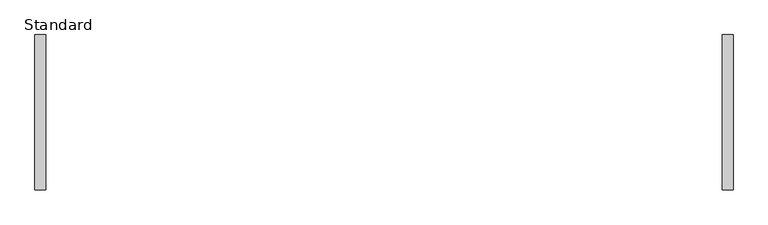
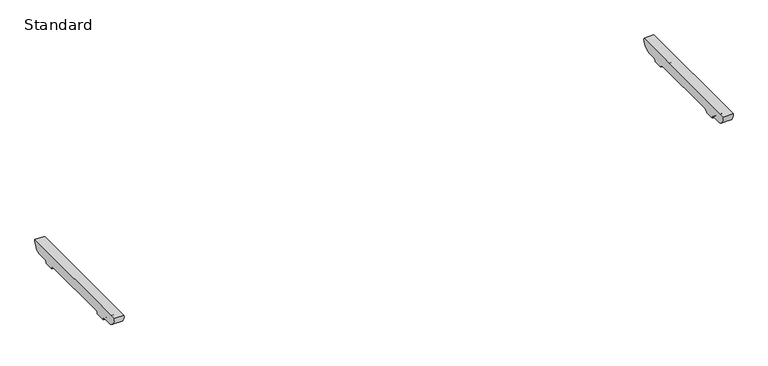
"""IFC4 building model written with IfcOpenShell, lengths in millimetres: furniture geometry, BDG_BossDesign_Tbls_AgentTables4Legs_Nested : Standard."""

from ifc_helpers import new_model, si_unit, point, frame, frame_2d, origin, place, context, project, spatial, polyline, circle_curve, trimmed, segment, composite_curve, outline, extrude, source, transform, mapped, element, save


def standard_67ecec02(model_context):
    return source(origin(), model_context, "Body", "SweptSolid", [
        extrude(outline(composite_curve([segment(polyline([(280.5450184, 672.0), (242.7000122, 672.0)]), True, "CONTINUOUS"), segment(trimmed(circle_curve(frame_2d((242.7000122, 660.0)), 12.0), [point((242.7000122, 672.0))], [point((230.7000122, 660.0))], True, "CARTESIAN"), True, "CONTINUOUS"), segment(polyline([(230.7000122, 660.0), (185.7000122, 660.0)]), True, "CONTINUOUS"), segment(trimmed(circle_curve(frame_2d((173.7000122, 660.0)), 12.0), [point((185.7000122, 660.0))], [point((173.7000122, 672.0))], True, "CARTESIAN"), True, "CONTINUOUS"), segment(polyline([(173.7000122, 672.0), (-173.7000122, 672.0)]), True, "CONTINUOUS"), segment(trimmed(circle_curve(frame_2d((-173.7000122, 660.0)), 12.0), [point((-173.7000122, 672.0))], [point((-185.7000122, 660.0))], True, "CARTESIAN"), True, "CONTINUOUS"), segment(polyline([(-185.7000122, 660.0), (-230.7000122, 660.0)]), True, "CONTINUOUS"), segment(trimmed(circle_curve(frame_2d((-242.7000122, 660.0)), 12.0), [point((-230.7000122, 660.0))], [point((-242.7000122, 672.0))], True, "CARTESIAN"), True, "CONTINUOUS"), segment(polyline([(-242.7000122, 672.0), (-280.5450184, 672.0)]), True, "CONTINUOUS"), segment(trimmed(circle_curve(frame_2d((-278.2220439, 716.5514119)), 44.6119324), [point((-280.5450184, 672.0))], [point((-322.5, 722.0))], False, "CARTESIAN"), True, "CONTINUOUS"), segment(polyline([(-322.5, 722.0), (322.5, 722.0)]), True, "CONTINUOUS"), segment(trimmed(circle_curve(frame_2d((278.2220439, 716.5514119)), 44.6119324), [point((322.5, 722.0))], [point((280.5450184, 672.0))], False, "CARTESIAN"), True, "CONTINUOUS")], self_intersect=False)), frame((1405.0, 0.0, 0.0), z_axis=(1.0, 0.0, 0.0), x_axis=(0.0, 1.0, 0.0)), (0.0, 0.0, 1.0), 45.0),
        extrude(outline(composite_curve([segment(polyline([(280.5450184, 672.0), (242.7000122, 672.0)]), True, "CONTINUOUS"), segment(trimmed(circle_curve(frame_2d((242.7000122, 660.0)), 12.0), [point((242.7000122, 672.0))], [point((230.7000122, 660.0))], True, "CARTESIAN"), True, "CONTINUOUS"), segment(polyline([(230.7000122, 660.0), (185.7000122, 660.0)]), True, "CONTINUOUS"), segment(trimmed(circle_curve(frame_2d((173.7000122, 660.0)), 12.0), [point((185.7000122, 660.0))], [point((173.7000122, 672.0))], True, "CARTESIAN"), True, "CONTINUOUS"), segment(polyline([(173.7000122, 672.0), (-173.7000122, 672.0)]), True, "CONTINUOUS"), segment(trimmed(circle_curve(frame_2d((-173.7000122, 660.0)), 12.0), [point((-173.7000122, 672.0))], [point((-185.7000122, 660.0))], True, "CARTESIAN"), True, "CONTINUOUS"), segment(polyline([(-185.7000122, 660.0), (-230.7000122, 660.0)]), True, "CONTINUOUS"), segment(trimmed(circle_curve(frame_2d((-242.7000122, 660.0)), 12.0), [point((-230.7000122, 660.0))], [point((-242.7000122, 672.0))], True, "CARTESIAN"), True, "CONTINUOUS"), segment(polyline([(-242.7000122, 672.0), (-280.5450184, 672.0)]), True, "CONTINUOUS"), segment(trimmed(circle_curve(frame_2d((-278.2220439, 716.5514119)), 44.6119324), [point((-280.5450184, 672.0))], [point((-322.5, 722.0))], False, "CARTESIAN"), True, "CONTINUOUS"), segment(polyline([(-322.5, 722.0), (322.5, 722.0)]), True, "CONTINUOUS"), segment(trimmed(circle_curve(frame_2d((278.2220439, 716.5514119)), 44.6119324), [point((322.5, 722.0))], [point((280.5450184, 672.0))], False, "CARTESIAN"), True, "CONTINUOUS")], self_intersect=False)), frame((-1450.0, 0.0, 0.0), z_axis=(1.0, 0.0, 0.0), x_axis=(0.0, 1.0, 0.0)), (0.0, 0.0, 1.0), 45.0),
    ])


if __name__ == "__main__":
    model = new_model("IFC4")
    model_context = context("Model", 3, world=origin())
    ifc_project = project(units=[si_unit("LENGTHUNIT", "METRE", prefix="MILLI")], contexts=[model_context])
    site = spatial("IfcSite", under=ifc_project)
    building = spatial("IfcBuilding", under=site)
    placement = place(None, origin())
    standard_shape = standard_67ecec02(model_context)
    element("IfcFurniture", 1, ObjectType="BDG_BossDesign_Tbls_AgentTables4Legs_Nested : Standard", at=placement, inside=building, context=model_context, shape_type="MappedRepresentation", body=[
        mapped(standard_shape, transform((0.0, 0.0, 0.0), x_axis=(1.0, 0.0, 0.0), y_axis=(0.0, 1.0, 0.0), z_axis=(0.0, 0.0, 1.0))),
    ])
    save(model, "model.ifc")
